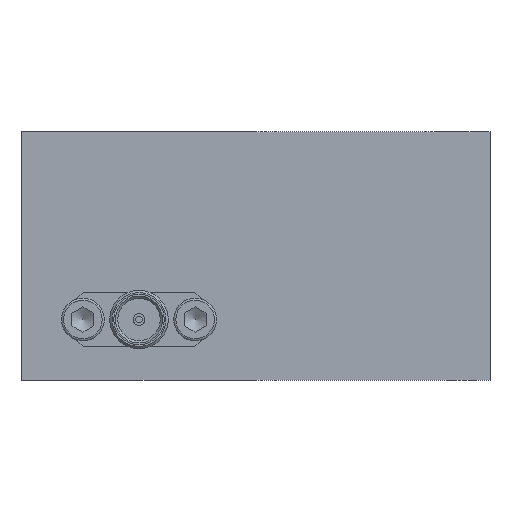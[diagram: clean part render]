
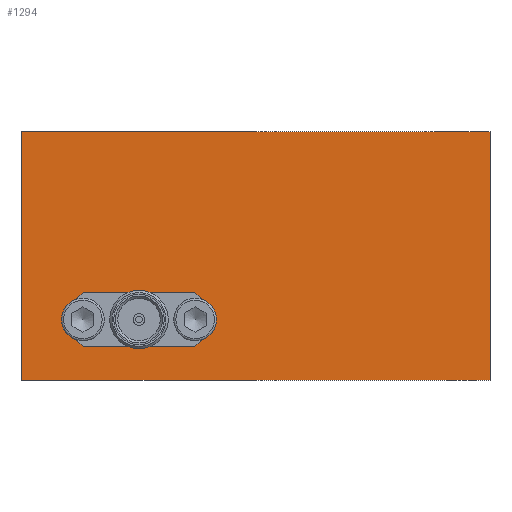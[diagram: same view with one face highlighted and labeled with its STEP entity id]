
A CAD part, left-side view. The second image highlights one B-rep face of the part: STEP entity #1294.
In plain terms, the highlighted planar face has unit normal (-1, 0, 0).
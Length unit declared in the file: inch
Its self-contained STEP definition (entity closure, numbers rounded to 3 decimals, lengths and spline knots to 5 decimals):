
#348=CARTESIAN_POINT('',(-1.875,1.0,1.063));
#349=VERTEX_POINT('',#348);
#356=CARTESIAN_POINT('',(-1.875,-1.0,1.063));
#357=VERTEX_POINT('',#356);
#358=CARTESIAN_POINT('',(-1.875,1.0,1.063));
#359=DIRECTION('',(0.0,-1.0,0.0));
#360=VECTOR('',#359,2.0);
#361=LINE('',#358,#360);
#362=EDGE_CURVE('',#349,#357,#361,.T.);
#564=CARTESIAN_POINT('',(-1.875,0.74,0.2935));
#565=VERTEX_POINT('',#564);
#566=CARTESIAN_POINT('',(-1.875,0.74,0.26));
#567=DIRECTION('',(1.0,0.0,0.0));
#568=DIRECTION('',(0.0,0.0,1.0));
#569=AXIS2_PLACEMENT_3D('',#566,#567,#568);
#570=CIRCLE('',#569,0.0335);
#571=EDGE_CURVE('',#565,#565,#570,.T.);
#594=CARTESIAN_POINT('',(-1.875,0.26,0.2935));
#595=VERTEX_POINT('',#594);
#596=CARTESIAN_POINT('',(-1.875,0.26,0.26));
#597=DIRECTION('',(1.0,0.0,0.0));
#598=DIRECTION('',(0.0,0.0,1.0));
#599=AXIS2_PLACEMENT_3D('',#596,#597,#598);
#600=CIRCLE('',#599,0.0335);
#601=EDGE_CURVE('',#595,#595,#600,.T.);
#614=CARTESIAN_POINT('',(-1.875,0.5,0.3045));
#615=VERTEX_POINT('',#614);
#616=CARTESIAN_POINT('',(-1.875,0.5,0.26));
#617=DIRECTION('',(1.0,0.0,0.0));
#618=DIRECTION('',(0.0,0.0,1.0));
#619=AXIS2_PLACEMENT_3D('',#616,#617,#618);
#620=CIRCLE('',#619,0.0445);
#621=EDGE_CURVE('',#615,#615,#620,.T.);
#1034=CARTESIAN_POINT('',(-1.875,1.0,0.0));
#1035=VERTEX_POINT('',#1034);
#1042=CARTESIAN_POINT('',(-1.875,1.0,0.0));
#1043=DIRECTION('',(0.0,0.0,1.0));
#1044=VECTOR('',#1043,1.063);
#1045=LINE('',#1042,#1044);
#1046=EDGE_CURVE('',#1035,#349,#1045,.T.);
#1262=CARTESIAN_POINT('',(-1.875,1.0,0.0));
#1263=DIRECTION('',(-1.0,0.0,0.0));
#1264=DIRECTION('',(0.0,-1.0,0.0));
#1265=AXIS2_PLACEMENT_3D('',#1262,#1263,#1264);
#1266=PLANE('',#1265);
#1267=CARTESIAN_POINT('',(-1.875,-1.0,0.0));
#1268=VERTEX_POINT('',#1267);
#1269=CARTESIAN_POINT('',(-1.875,-1.0,0.0));
#1270=DIRECTION('',(0.0,1.0,0.0));
#1271=VECTOR('',#1270,2.0);
#1272=LINE('',#1269,#1271);
#1273=EDGE_CURVE('',#1268,#1035,#1272,.T.);
#1274=ORIENTED_EDGE('',*,*,#1273,.F.);
#1275=CARTESIAN_POINT('',(-1.875,-1.0,0.0));
#1276=DIRECTION('',(0.0,0.0,1.0));
#1277=VECTOR('',#1276,1.063);
#1278=LINE('',#1275,#1277);
#1279=EDGE_CURVE('',#1268,#357,#1278,.T.);
#1280=ORIENTED_EDGE('',*,*,#1279,.T.);
#1281=ORIENTED_EDGE('',*,*,#362,.F.);
#1282=ORIENTED_EDGE('',*,*,#1046,.F.);
#1283=EDGE_LOOP('',(#1274,#1280,#1281,#1282));
#1284=FACE_OUTER_BOUND('',#1283,.T.);
#1285=ORIENTED_EDGE('',*,*,#571,.T.);
#1286=EDGE_LOOP('',(#1285));
#1287=FACE_BOUND('',#1286,.T.);
#1288=ORIENTED_EDGE('',*,*,#601,.T.);
#1289=EDGE_LOOP('',(#1288));
#1290=FACE_BOUND('',#1289,.T.);
#1291=ORIENTED_EDGE('',*,*,#621,.T.);
#1292=EDGE_LOOP('',(#1291));
#1293=FACE_BOUND('',#1292,.T.);
#1294=ADVANCED_FACE('',(#1284,#1287,#1290,#1293),#1266,.T.);
